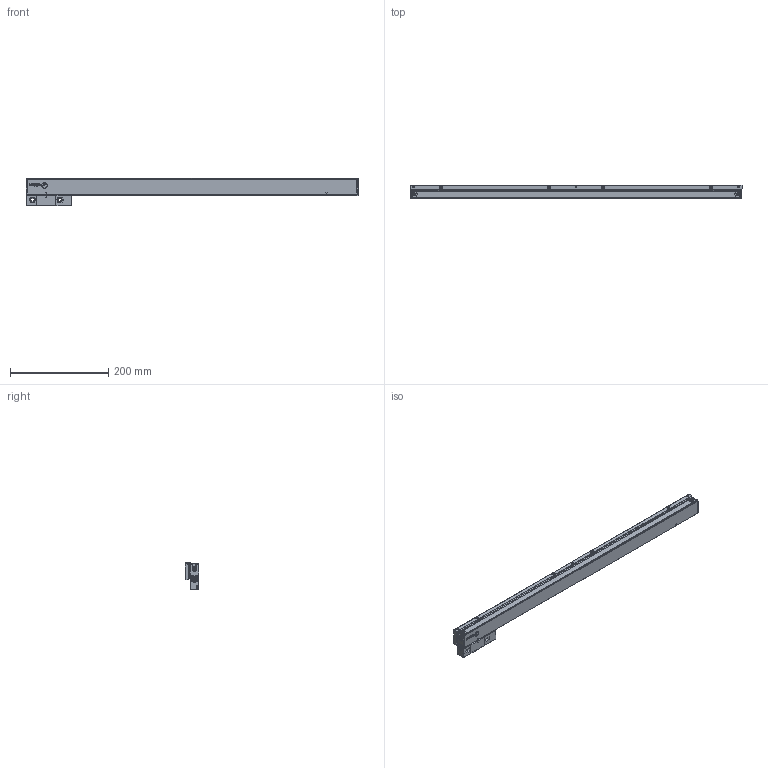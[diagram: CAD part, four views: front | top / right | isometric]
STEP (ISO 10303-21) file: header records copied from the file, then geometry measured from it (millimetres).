
FILE_DESCRIPTION(('Creo Elements/Direct Modeling STEP Export'),'2;1');
FILE_NAME('Regla SV2-570.stp','2015-07-07T12:07:15',(''),(''),'Creo Elements/Direct Modeling STEP processor for AP214 (Solid Model)','Creo Elements/Direct Modeling 18.1G 27-Feb-2015 (C) Parametric Technology GmbH','');
FILE_SCHEMA(('AUTOMOTIVE_DESIGN { 1 0 10303 214 1 1 1 1 }'));
Length unit declared in the file: millimetre
Products named in the file (4): CABEZA_RANURADA_REGLA_SV2; REGLA_SV2-570; SOPORTE_SV2; REGLA_SV2-570mm
Assembly tree (3 placements, depth 2):
  REGLA_SV2-570mm
    SOPORTE_SV2
    REGLA_SV2-570
    CABEZA_RANURADA_REGLA_SV2
Bounding box: 675 x 28 x 56.2 mm (x, y, z)
Volume: 379577.8 mm3; surface area: 202721.2 mm2
Topology: 2 solids, 21 shells, 2053 faces, 5675 edges, 3691 vertices
Faces by surface type: plane 885, cylinder 826, cone 198, bspline 98, torus 34, sphere 12
Entity records: 85543 total; most frequent: CARTESIAN_POINT 26591, ORIENTED_EDGE 11322, DIRECTION 9443, EDGE_CURVE 5645, VERTEX_POINT 3691, AXIS2_PLACEMENT_3D 3238, VECTOR 2967, LINE 2967
